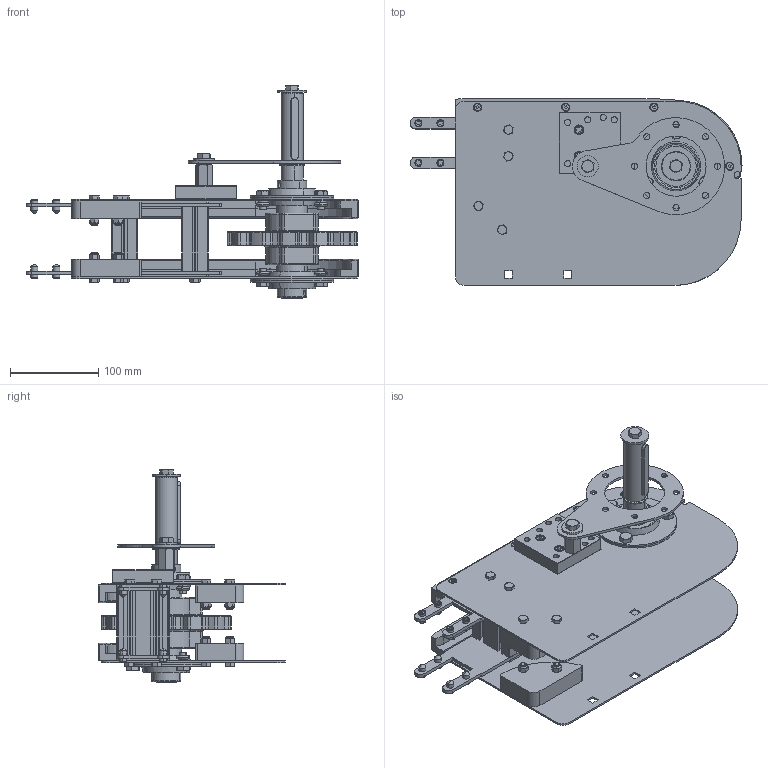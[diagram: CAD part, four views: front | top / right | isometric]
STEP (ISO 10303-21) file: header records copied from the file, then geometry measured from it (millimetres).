
FILE_DESCRIPTION (( 'STEP AP214' ), '1' );
FILE_NAME ('2000.325.149-2.STEP', '2020-08-31T14:54:23', ( '' ), ( '' ), 'SwSTEP 2.0', 'SolidWorks 2018', '' );
FILE_SCHEMA (( 'AUTOMOTIVE_DESIGN' ));
Length unit declared in the file: millimetre
Products named in the file (32): VITI TE UNI 5739 INOX_M8x16 UNI 5739 INOX; VITI TCEI UNI 5931 INOX_M6x30 UNI 5931 INOX; RONDELLE FASCIA LARGA UNI 6593 INOX_8.4x24 UNI 6593 INOX; 2000.001.006-2; 084.312.006; CHIAVETTE_A 8x7x50 UNI 6604-69; 2000.325.001_Default<Lavorato>; circlip din 471 - 25 x 1.2_Circlip DIN 471 - 25 x 1.2; CHIAVETTE_A 8x7x70 UNI 6604-69; 2000.325.104-2; GRANI A PUNTA PIATTA UNI 5923_M8x20 UNI 5923; RONDELLE FASCIA LARGA UNI 6593 INOX_8.4x32 UNI 6593 INOX; 2000.001.003-3; 2000.325.103; 2000.001.001; GRANI A PUNTA CONICA UNI 5927_M8x16 UNI 5927; 2000.325.003; 084.802.027; 663151_NS880T12R25; VITI TE UNI 5739 INOX_M8x20 UNI 5739 INOX; SBPF205; VITI TE UNI 5739 INOX_M6x20 UNI 5739 INOX; 2000.325.105-2; 2000.001.011; VITI TE UNI 5739 INOX_M6x30 UNI 5739 INOX; 2000.001.002-1; VITI TSEI UNI 5933 INOX_0410UNI5933A2; 2000.001.004-3; DADI ESAGONALI AUTOBLOCCANTI UNI 7473 INOX_M6 UNI 7473 INOX; PU008.012.025N; 2000.325.149-2; 084.808.004
Assembly tree (74 placements, depth 2):
  2000.325.149-2
    084.802.027
    2000.001.006-2  x2
    2000.325.003  x2
    2000.325.103
    2000.001.001  x2
    2000.325.001_Default<Lavorato>  x2
    084.808.004
    2000.325.104-2
    2000.001.004-3
    2000.001.002-1  x2
    2000.001.003-3
    2000.001.011
    2000.325.105-2
    CHIAVETTE_A 8x7x70 UNI 6604-69
    CHIAVETTE_A 8x7x50 UNI 6604-69
    SBPF205  x2
    663151_NS880T12R25
    VITI TSEI UNI 5933 INOX_0410UNI5933A2  x8
    GRANI A PUNTA CONICA UNI 5927_M8x16 UNI 5927  x8
    VITI TCEI UNI 5931 INOX_M6x30 UNI 5931 INOX  x2
    VITI TE UNI 5739 INOX_M8x20 UNI 5739 INOX
    RONDELLE FASCIA LARGA UNI 6593 INOX_8.4x32 UNI 6593 INOX
    GRANI A PUNTA PIATTA UNI 5923_M8x20 UNI 5923
    circlip din 471 - 25 x 1.2_Circlip DIN 471 - 25 x 1.2
    RONDELLE FASCIA LARGA UNI 6593 INOX_8.4x24 UNI 6593 INOX
    VITI TE UNI 5739 INOX_M8x16 UNI 5739 INOX  x7
    DADI ESAGONALI AUTOBLOCCANTI UNI 7473 INOX_M6 UNI 7473 INOX  x4
    084.312.006  x6
    PU008.012.025N
    VITI TE UNI 5739 INOX_M6x30 UNI 5739 INOX  x4
    VITI TE UNI 5739 INOX_M6x20 UNI 5739 INOX  x6
Bounding box: 376.25 x 211.8 x 241.33 mm (x, y, z)
Volume: 1393326 mm3; surface area: 719646.8 mm2
Topology: 72 solids, 78 shells, 2173 faces, 5230 edges, 3243 vertices
Faces by surface type: plane 886, cylinder 693, cone 342, torus 188, bspline 64
Entity records: 39916 total; most frequent: CARTESIAN_POINT 7673, DIRECTION 6819, ORIENTED_EDGE 6074, EDGE_CURVE 3039, AXIS2_PLACEMENT_3D 2645, VERTEX_POINT 1895, VECTOR 1529, LINE 1529
